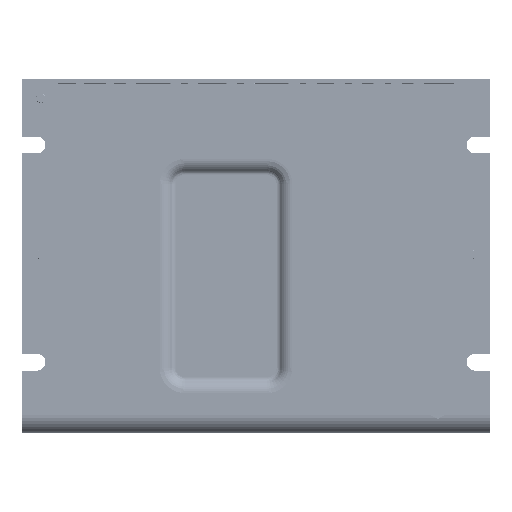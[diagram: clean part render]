
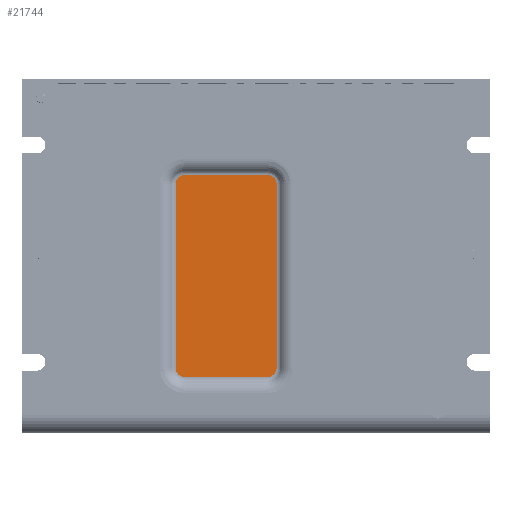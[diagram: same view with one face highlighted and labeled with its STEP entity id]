
A CAD part, front view. The second image highlights one B-rep face of the part: STEP entity #21744.
In plain terms, the highlighted planar face has unit normal (0, -1, 0).
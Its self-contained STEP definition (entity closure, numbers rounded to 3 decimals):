
#19743=DIRECTION('',(-1.,0.,0.));
#19744=VECTOR('',#19743,22.);
#19745=CARTESIAN_POINT('',(3.,2.,15.));
#19746=LINE('',#19745,#19744);
#19750=CARTESIAN_POINT('',(-19.,2.,17.5));
#19751=DIRECTION('',(0.,1.,0.));
#19752=DIRECTION('',(0.,0.,-1.));
#19753=AXIS2_PLACEMENT_3D('',#19750,#19751,#19752);
#19758=DIRECTION('',(0.,0.,1.));
#19759=VECTOR('',#19758,49.);
#19760=CARTESIAN_POINT('',(-21.5,2.,17.5));
#19761=LINE('',#19760,#19759);
#19765=CARTESIAN_POINT('',(-19.,2.,66.5));
#19766=DIRECTION('',(0.,1.,0.));
#19767=DIRECTION('',(-1.,0.,0.));
#19768=AXIS2_PLACEMENT_3D('',#19765,#19766,#19767);
#19773=DIRECTION('',(1.,0.,0.));
#19774=VECTOR('',#19773,22.);
#19775=CARTESIAN_POINT('',(-19.,2.,69.));
#19776=LINE('',#19775,#19774);
#19780=CARTESIAN_POINT('',(3.,2.,66.5));
#19781=DIRECTION('',(0.,1.,0.));
#19782=DIRECTION('',(0.,0.,1.));
#19783=AXIS2_PLACEMENT_3D('',#19780,#19781,#19782);
#19788=DIRECTION('',(0.,0.,-1.));
#19789=VECTOR('',#19788,49.);
#19790=CARTESIAN_POINT('',(5.5,2.,66.5));
#19791=LINE('',#19790,#19789);
#19795=CARTESIAN_POINT('',(3.,2.,17.5));
#19796=DIRECTION('',(0.,1.,0.));
#19797=DIRECTION('',(1.,0.,0.));
#19798=AXIS2_PLACEMENT_3D('',#19795,#19796,#19797);
#20267=CARTESIAN_POINT('',(3.,2.,15.));
#20268=CARTESIAN_POINT('',(-19.,2.,15.));
#20269=VERTEX_POINT('',#20267);
#20270=VERTEX_POINT('',#20268);
#20271=CARTESIAN_POINT('',(-21.5,2.,17.5));
#20272=CARTESIAN_POINT('',(-21.5,2.,66.5));
#20273=VERTEX_POINT('',#20271);
#20274=VERTEX_POINT('',#20272);
#20275=CARTESIAN_POINT('',(-19.,2.,69.));
#20276=CARTESIAN_POINT('',(3.,2.,69.));
#20277=VERTEX_POINT('',#20275);
#20278=VERTEX_POINT('',#20276);
#20279=CARTESIAN_POINT('',(5.5,2.,66.5));
#20280=CARTESIAN_POINT('',(5.5,2.,17.5));
#20281=VERTEX_POINT('',#20279);
#20282=VERTEX_POINT('',#20280);
#21729=CARTESIAN_POINT('',(-8.,2.,42.));
#21730=DIRECTION('',(0.,1.,0.));
#21731=DIRECTION('',(1.,0.,0.));
#21732=AXIS2_PLACEMENT_3D('',#21729,#21730,#21731);
#21733=PLANE('',#21732);
#21734=ORIENTED_EDGE('',*,*,#21640,.T.);
#21735=ORIENTED_EDGE('',*,*,#21654,.T.);
#21736=ORIENTED_EDGE('',*,*,#21668,.T.);
#21737=ORIENTED_EDGE('',*,*,#21682,.T.);
#21738=ORIENTED_EDGE('',*,*,#21696,.T.);
#21739=ORIENTED_EDGE('',*,*,#21710,.T.);
#21740=ORIENTED_EDGE('',*,*,#21723,.T.);
#21741=ORIENTED_EDGE('',*,*,#21625,.T.);
#21742=EDGE_LOOP('',(#21734,#21735,#21736,#21737,#21738,#21739,#21740,#21741));
#21743=FACE_OUTER_BOUND('',#21742,.F.);
#21744=ADVANCED_FACE('',(#21743),#21733,.F.);
#19754=CIRCLE('',#19753,2.5);
#19769=CIRCLE('',#19768,2.5);
#19784=CIRCLE('',#19783,2.5);
#19799=CIRCLE('',#19798,2.5);
#21625=EDGE_CURVE('',#20282,#20269,#19799,.T.);
#21640=EDGE_CURVE('',#20269,#20270,#19746,.T.);
#21654=EDGE_CURVE('',#20270,#20273,#19754,.T.);
#21668=EDGE_CURVE('',#20273,#20274,#19761,.T.);
#21682=EDGE_CURVE('',#20274,#20277,#19769,.T.);
#21696=EDGE_CURVE('',#20277,#20278,#19776,.T.);
#21710=EDGE_CURVE('',#20278,#20281,#19784,.T.);
#21723=EDGE_CURVE('',#20281,#20282,#19791,.T.);
